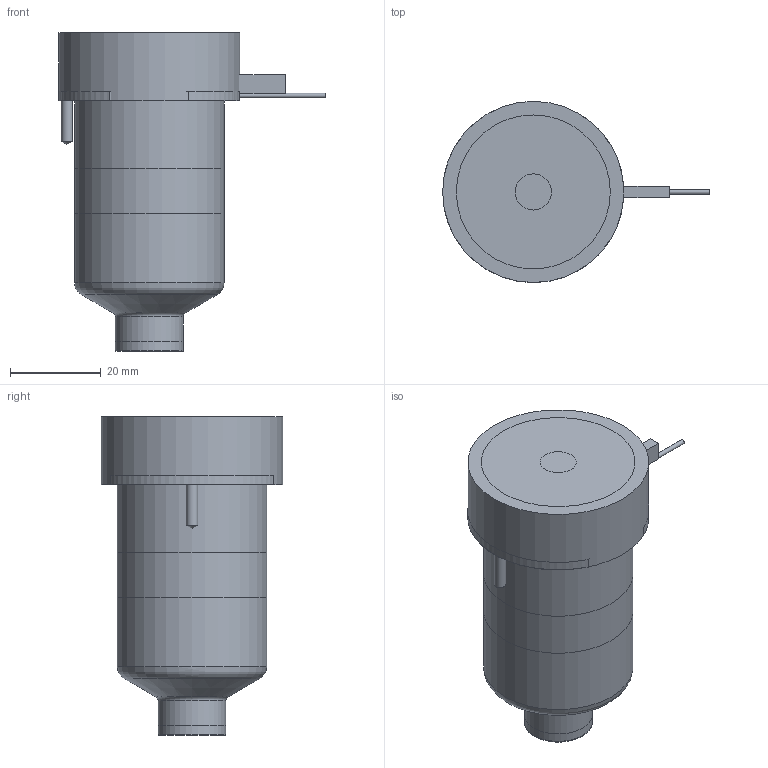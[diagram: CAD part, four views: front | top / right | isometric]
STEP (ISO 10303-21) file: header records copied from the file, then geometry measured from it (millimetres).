
FILE_DESCRIPTION(/* description */ (''),/* implementation_level */ '2;1');
FILE_NAME(/* name */ 'BXTBN-BXIBN-BXOBN19055_250C_b',/* time_stamp */ '2007-01-18T09:57:57+13:00',/* author */ (''),/* organization */ (''),/* preprocessor_version */ 'ST-DEVELOPER v9',/* originating_system */ 'UGS - NX 4.0',/* authorisation */ '');
FILE_SCHEMA (('CONFIG_CONTROL_DESIGN'));
Length unit declared in the file: millimetre
Products named in the file (1): BXTBN-BXIBN-BXOBN19055_250C_b
Bounding box: 58.85 x 40 x 70.38 mm (x, y, z)
Volume: 113501.1 mm3; surface area: 21635.8 mm2
Topology: 6 solids, 6 shells, 74 faces, 147 edges, 95 vertices
Faces by surface type: plane 35, cylinder 23, cone 8, torus 7, bspline 1
Full cylindrical faces by diameter (mm): 1 x3, 1.2 x1, 2.5 x2, 8 x1, 14.61 x1, 15.01 x2, 18.3 x1, 28.6 x1, 33 x2, 40 x1
Entity records: 1860 total; most frequent: CARTESIAN_POINT 376, DIRECTION 310, ORIENTED_EDGE 220, AXIS2_PLACEMENT_3D 136, EDGE_LOOP 112, EDGE_CURVE 110, VERTEX_POINT 87, ADVANCED_FACE 74
